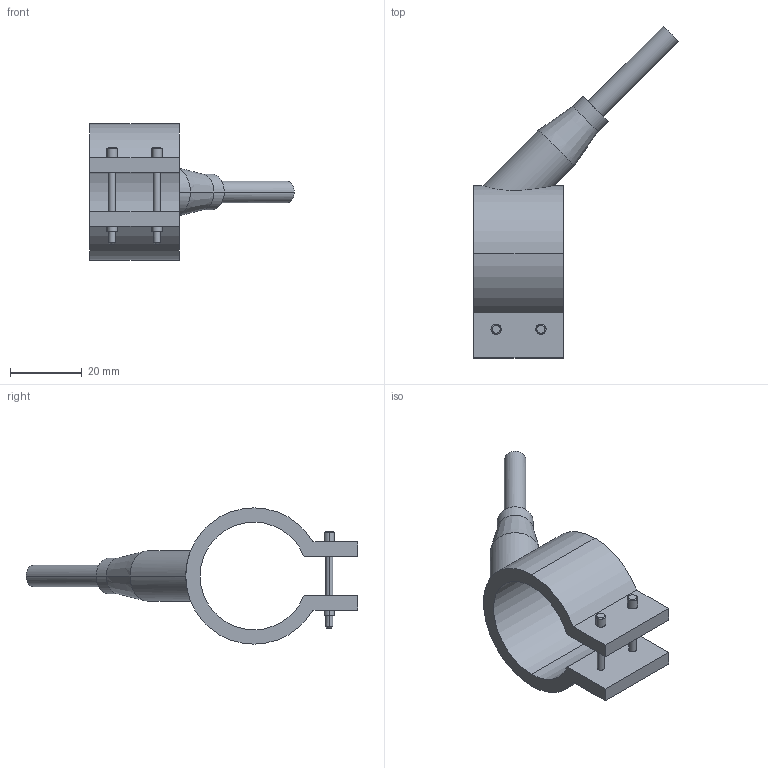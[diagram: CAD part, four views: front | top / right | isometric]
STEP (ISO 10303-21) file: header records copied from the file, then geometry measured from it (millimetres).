
FILE_DESCRIPTION(('CATIA V5 STEP Exchange'),'2;1');
FILE_NAME('C:\Users\Utente\Desktop\IO LAVORO\3D X SITO CF\X SITO\PLASTICA\RF1\29030025.stp','2021-03-27T09:08:02+00:00',('none'),('none'),'CATIA Version 5 Release 20 GA (IN-10)','CATIA V5 STEP AP203','none');
FILE_SCHEMA(('CONFIG_CONTROL_DESIGN'));
Length unit declared in the file: millimetre
Products named in the file (1): 29030025
Bounding box: 57.05 x 92.55 x 38 mm (x, y, z)
Volume: 16854.6 mm3; surface area: 9013 mm2
Topology: 1 solids, 1 shells, 54 faces, 122 edges, 78 vertices
Faces by surface type: cylinder 28, plane 16, cone 10
Entity records: 1743 total; most frequent: CARTESIAN_POINT 516, ORIENTED_EDGE 244, DIRECTION 213, EDGE_CURVE 122, AXIS2_PLACEMENT_3D 106, VERTEX_POINT 78, EDGE_LOOP 66, VECTOR 56
